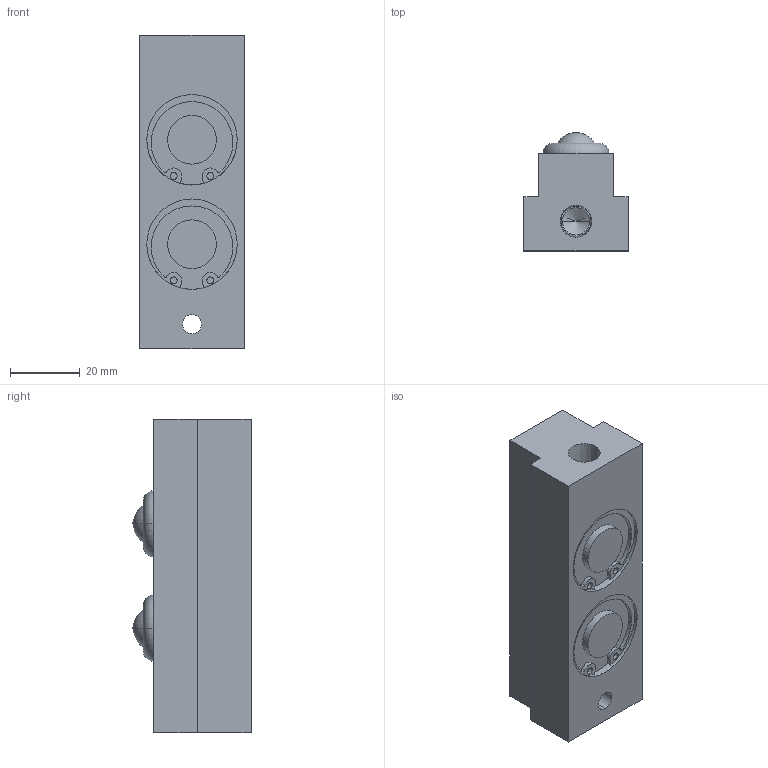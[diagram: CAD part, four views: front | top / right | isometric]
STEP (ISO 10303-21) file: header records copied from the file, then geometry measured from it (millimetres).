
FILE_DESCRIPTION (( 'STEP AP203' ), '1' );
FILE_NAME ('PVL20T-2.STEP', '2015-12-24T07:05:28', ( '' ), ( '' ), 'SwSTEP 2.0', 'SolidWorks 2013', '' );
FILE_SCHEMA (( 'CONFIG_CONTROL_DESIGN' ));
Length unit declared in the file: millimetre
Products named in the file (1): PVL20T-2
Bounding box: 30 x 34 x 90 mm (x, y, z)
Volume: 64736.3 mm3; surface area: 13552.3 mm2
Topology: 1 solids, 1 shells, 78 faces, 186 edges, 123 vertices
Faces by surface type: cylinder 38, plane 28, torus 4, sphere 4, cone 4
Entity records: 2381 total; most frequent: DIRECTION 446, CARTESIAN_POINT 386, ORIENTED_EDGE 368, EDGE_CURVE 184, AXIS2_PLACEMENT_3D 183, VERTEX_POINT 123, CIRCLE 104, EDGE_LOOP 95
